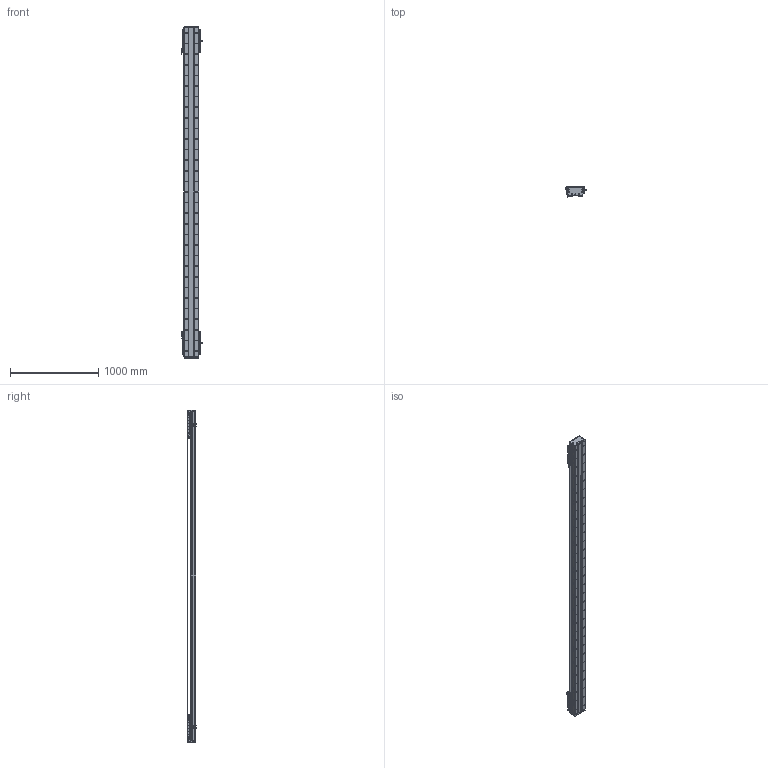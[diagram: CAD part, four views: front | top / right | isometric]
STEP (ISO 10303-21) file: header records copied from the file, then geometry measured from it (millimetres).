
FILE_DESCRIPTION (( 'STEP AP203' ), '1' );
FILE_NAME ('DA-C165-2-C3-T3140-C010-0.2 直线电机.STEP', '2023-06-13T09:10:55', ( '微软用户' ), ( '微软中国' ), 'SwSTEP 2.0', 'SolidWorks 2019', '' );
FILE_SCHEMA (( 'CONFIG_CONTROL_DESIGN' ));
Length unit declared in the file: millimetre
Products named in the file (22): 复件 六角薄螺母 M3^DA-C165-C3-T-C010-0.2-N 直线电机_GB_FASTENER_NUT_STNAB M3-C; 复件 DA165-GDLK-00 钢带拉块^复件 CU165钢带组件_DA-C165-C3-T-C010-0.2-N 直线电机; 复件 DA165-GD-DG-H-00 端盖^复件 CU165钢带组件_DA-C165-C3-T-C010-0.2-N 直线电机; 葩璃 PM-Y45^DA-C165-C3-T-C010-0.2-N 眻盄萇儂; 复件 CU165钢带组件^DA-C165-C3-T-C010-0.2-N 直线电机; 葩璃 CKM01-W075-TRL^DA-C165-C3-T-C010-0.2-N 眻盄萇儂; 复件 DMA-010-0.2 读数头^DA-C165-C3-T-C010-0.2-N 直线电机; 葩璃 PM-T45^DA-C165-C3-T-C010-0.2-N 眻盄萇儂; 复件 DKW-HXJ-JY-00 缓冲橡胶^DA-C165-C3-T-C010-0.2-N 直线电机; 复件 DA165-GYP-00 光电感应片^DA-C165-C3-T-C010-0.2-N 直线电机; 葩璃 DA95-GT-T-00^IU-CU165-L 菁釱絳寢_T; 葩璃 CKM03-W075-C1C2-TP-3.0^DA-C165-C3-T-C010-0.2-N 眻盄萇儂; 复件 DA165-GD-1860-002-00 钢带盖板^复件 CU165钢带组件_DA-C165-C3-T-C010-0.2-N 直线电机; 珨极趙賑雄怢啣C3-wf; 复件 CU165 底座^IU-CU165-L 底座导轨_L3720; DA-C165-2-C3-T3140-C010-0.2 眻盄萇儂; IU-CU165-L 菁釱絳寢; 复件 66338-1000-006-00 光电感应块^DA-C165-C3-T-C010-0.2-N 直线电机; 复件 XD-U-02L 磁栅尺^DA-C165-C3-T-C010-0.2-N 直线电机_T; 复件 DA126-GYP-ZJ-00 中间光电感应片^DA-C165-C3-T-C010-0.2-N 直线电机; 复件 DA165-GDYK-00 钢带压块^复件 CU165钢带组件_DA-C165-C3-T-C010-0.2-N 直线电机; 复件 DA95-HXJ-00 缓冲橡胶^DA-C165-C3-T-C010-0.2-N 直线电机
Assembly tree (45 placements, depth 3):
  DA-C165-2-C3-T3140-C010-0.2 眻盄萇儂
    IU-CU165-L 菁釱絳寢
      复件 CU165 底座^IU-CU165-L 底座导轨_L3720
      葩璃 DA95-GT-T-00^IU-CU165-L 菁釱絳寢_T  x4
    复件 XD-U-02L 磁栅尺^DA-C165-C3-T-C010-0.2-N 直线电机_T
    葩璃 PM-T45^DA-C165-C3-T-C010-0.2-N 眻盄萇儂  x4
    葩璃 CKM01-W075-TRL^DA-C165-C3-T-C010-0.2-N 眻盄萇儂
    复件 CU165钢带组件^DA-C165-C3-T-C010-0.2-N 直线电机
      复件 DA165-GD-DG-H-00 端盖^复件 CU165钢带组件_DA-C165-C3-T-C010-0.2-N 直线电机  x2
      复件 DA165-GDYK-00 钢带压块^复件 CU165钢带组件_DA-C165-C3-T-C010-0.2-N 直线电机  x2
      复件 DA165-GD-1860-002-00 钢带盖板^复件 CU165钢带组件_DA-C165-C3-T-C010-0.2-N 直线电机
      复件 DA165-GDLK-00 钢带拉块^复件 CU165钢带组件_DA-C165-C3-T-C010-0.2-N 直线电机  x2
    复件 DA95-HXJ-00 缓冲橡胶^DA-C165-C3-T-C010-0.2-N 直线电机  x4
    复件 DMA-010-0.2 读数头^DA-C165-C3-T-C010-0.2-N 直线电机  x2
    复件 DA165-GYP-00 光电感应片^DA-C165-C3-T-C010-0.2-N 直线电机  x2
    复件 66338-1000-006-00 光电感应块^DA-C165-C3-T-C010-0.2-N 直线电机
    葩璃 PM-Y45^DA-C165-C3-T-C010-0.2-N 眻盄萇儂
    复件 DA126-GYP-ZJ-00 中间光电感应片^DA-C165-C3-T-C010-0.2-N 直线电机
    葩璃 CKM03-W075-C1C2-TP-3.0^DA-C165-C3-T-C010-0.2-N 眻盄萇儂  x2
    复件 DKW-HXJ-JY-00 缓冲橡胶^DA-C165-C3-T-C010-0.2-N 直线电机  x2
    复件 六角薄螺母 M3^DA-C165-C3-T-C010-0.2-N 直线电机_GB_FASTENER_NUT_STNAB M3-C  x8
    珨极趙賑雄怢啣C3-wf  x2
Bounding box: 247.2 x 111.45 x 3760 mm (x, y, z)
Volume: 22684972.7 mm3; surface area: 6611971.2 mm2
Topology: 121 solids, 221 shells, 7121 faces, 20012 edges, 12560 vertices
Faces by surface type: cylinder 3998, plane 2055, cone 980, torus 80, sphere 8
Entity records: 176558 total; most frequent: CARTESIAN_POINT 49619, ORIENTED_EDGE 26608, DIRECTION 25396, EDGE_CURVE 13304, AXIS2_PLACEMENT_3D 9757, VERTEX_POINT 8714, EDGE_LOOP 6096, LINE 5882
